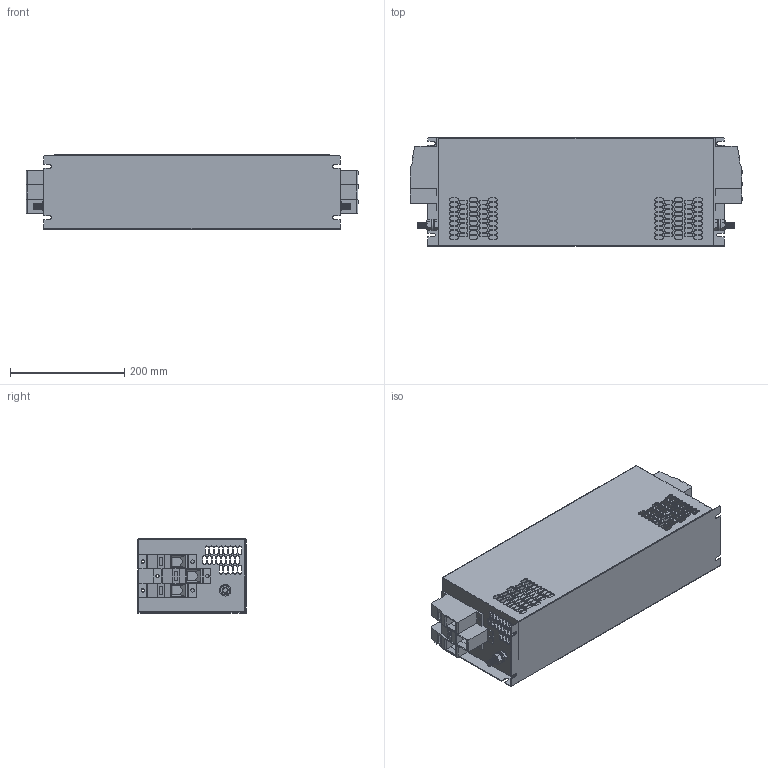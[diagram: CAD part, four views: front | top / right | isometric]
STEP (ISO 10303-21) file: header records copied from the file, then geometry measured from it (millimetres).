
FILE_DESCRIPTION (( 'STEP AP203' ), '1' );
FILE_NAME ('NF-KC-DAR2-230-3.STEP', '2025-09-25T14:34:08', ( '' ), ( '' ), 'SwSTEP 2.0', 'SolidWorks 2017', '' );
FILE_SCHEMA (( 'CONFIG_CONTROL_DESIGN' ));
Length unit declared in the file: millimetre
Products named in the file (7): hex nut style 1_am_B18.2.4.1M - Hex nut, Style 1,  M10 x 1.5, with 16mm WAF --D-N; NF-KC-DAR2-230-3; HDFK-95; flat washer narrow_am_B18.22M - Plain washer, 10 mm, narrow; hex screw_am_B18.6.7M - M10 x 1.5 x 30 Indented HHMS --30S; M10x30 Earth post
Assembly tree (13 placements, depth 3):
  NF-KC-DAR2-230-3
    NF-KC-DAR2-230-3
    HDFK-95  x6
    M10x30 Earth post  x2
      flat washer narrow_am_B18.22M - Plain washer, 10 mm, narrow
      hex nut style 1_am_B18.2.4.1M - Hex nut, Style 1,  M10 x 1.5, with 16mm WAF --D-N
      hex screw_am_B18.6.7M - M10 x 1.5 x 30 Indented HHMS --30S
Bounding box: 580 x 190 x 130 mm (x, y, z)
Volume: 1106005.4 mm3; surface area: 963998.4 mm2
Topology: 17 solids, 17 shells, 1563 faces, 4267 edges, 2782 vertices
Faces by surface type: plane 758, cylinder 603, cone 200, sphere 2
Entity records: 33700 total; most frequent: DIRECTION 5819, CARTESIAN_POINT 5804, ORIENTED_EDGE 5554, EDGE_CURVE 2777, AXIS2_PLACEMENT_3D 2087, VERTEX_POINT 1824, LINE 1645, VECTOR 1645
